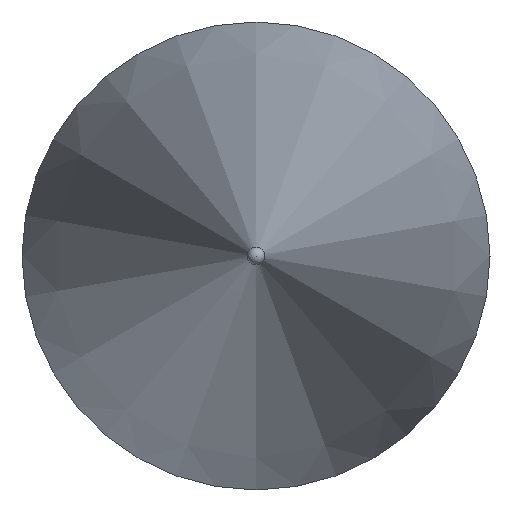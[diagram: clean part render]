
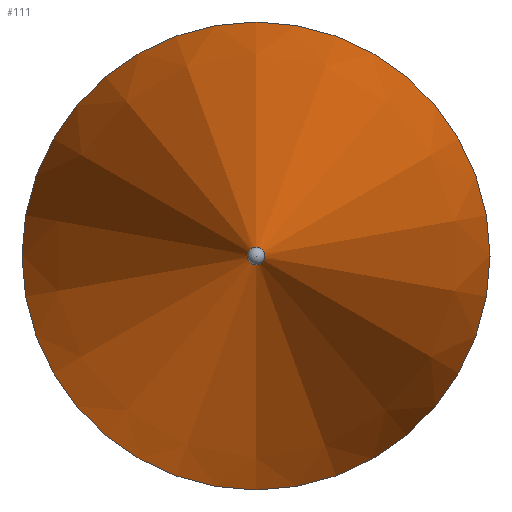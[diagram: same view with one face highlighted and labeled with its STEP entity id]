
A CAD part, left-side view. The second image highlights one B-rep face of the part: STEP entity #111.
In plain terms, the highlighted conical face has half-angle 12 degrees and reference radius 2 mm.
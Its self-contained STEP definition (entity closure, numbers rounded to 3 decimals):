
#95=CONICAL_SURFACE('',#160,2.,12.);
#101=FACE_BOUND('',#121,.T.);
#102=FACE_BOUND('',#122,.T.);
#111=ADVANCED_FACE('',(#101,#102),#95,.T.);
#121=EDGE_LOOP('',(#131));
#122=EDGE_LOOP('',(#132));
#131=ORIENTED_EDGE('',*,*,#144,.F.);
#132=ORIENTED_EDGE('',*,*,#145,.T.);
#139=VERTEX_POINT('',#196);
#140=VERTEX_POINT('',#199);
#144=EDGE_CURVE('',#139,#139,#149,.T.);
#145=EDGE_CURVE('',#140,#140,#150,.T.);
#149=CIRCLE('',#157,0.075);
#150=CIRCLE('',#159,2.);
#157=AXIS2_PLACEMENT_3D('',#195,#174,#175);
#159=AXIS2_PLACEMENT_3D('',#198,#178,#179);
#160=AXIS2_PLACEMENT_3D('',#200,#180,#181);
#174=DIRECTION('',(-1.,0.,0.));
#175=DIRECTION('',(0.,0.,1.));
#178=DIRECTION('',(-1.,0.,0.));
#179=DIRECTION('',(0.,0.,1.));
#180=DIRECTION('',(1.,0.,0.));
#181=DIRECTION('',(0.,0.,-1.));
#195=CARTESIAN_POINT('',(7888.012,6105.041,0.));
#196=CARTESIAN_POINT('',(7888.012,6105.041,0.075));
#198=CARTESIAN_POINT('',(7897.068,6105.041,0.));
#199=CARTESIAN_POINT('',(7897.068,6105.041,2.));
#200=CARTESIAN_POINT('',(7897.068,6105.041,0.));
